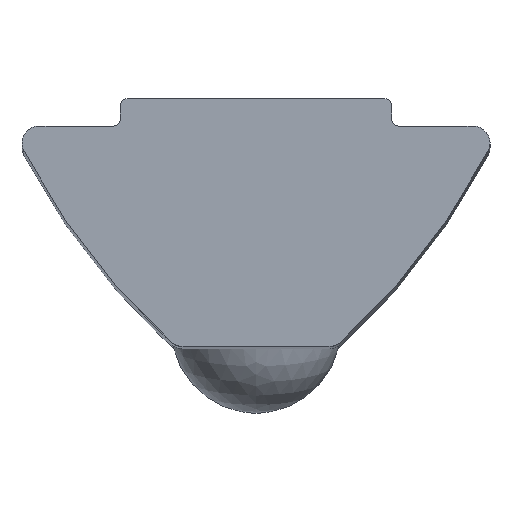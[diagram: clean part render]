
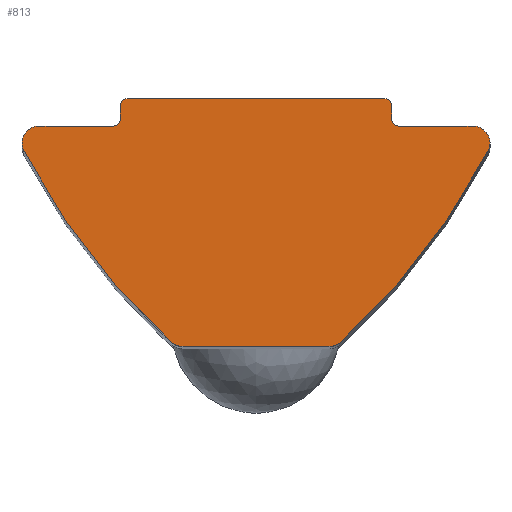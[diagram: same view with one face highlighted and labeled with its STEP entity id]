
A CAD part, top view. The second image highlights one B-rep face of the part: STEP entity #813.
In plain terms, the highlighted planar face has unit normal (0, 0, 1).
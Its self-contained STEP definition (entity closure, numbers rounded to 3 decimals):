
#12 = ORIENTED_EDGE ( 'NONE', *, *, #6687, .T. ) ;
#146 = VERTEX_POINT ( 'NONE', #8155 ) ;
#241 = CARTESIAN_POINT ( 'NONE',  ( -10.908, 7.682, 58. ) ) ;
#273 = DIRECTION ( 'NONE',  ( 0., 0., 1. ) ) ;
#308 = CARTESIAN_POINT ( 'NONE',  ( 2.15, -7.3, 58. ) ) ;
#316 = CARTESIAN_POINT ( 'NONE',  ( -4., -0.6, 58. ) ) ;
#490 = VERTEX_POINT ( 'NONE', #4217 ) ;
#635 = VERTEX_POINT ( 'NONE', #1639 ) ;
#643 = CIRCLE ( 'NONE', #4940, 20. ) ;
#690 = CARTESIAN_POINT ( 'NONE',  ( 6.4, -0.8, 58. ) ) ;
#732 = EDGE_CURVE ( 'NONE', #635, #146, #5667, .T. ) ;
#766 = VECTOR ( 'NONE', #8208, 1000. ) ;
#774 = AXIS2_PLACEMENT_3D ( 'NONE', #7708, #8504, #5123 ) ;
#806 = ORIENTED_EDGE ( 'NONE', *, *, #5677, .T. ) ;
#813 = ADVANCED_FACE ( 'NONE', ( #2361 ), #7065, .T. ) ;
#882 = EDGE_CURVE ( 'NONE', #7091, #2445, #643, .T. ) ;
#891 = DIRECTION ( 'NONE',  ( 0., 0., 1. ) ) ;
#901 = AXIS2_PLACEMENT_3D ( 'NONE', #4336, #273, #7055 ) ;
#1174 = CARTESIAN_POINT ( 'NONE',  ( -4.2, -0.6, 58. ) ) ;
#1426 = ORIENTED_EDGE ( 'NONE', *, *, #7186, .T. ) ;
#1427 = DIRECTION ( 'NONE',  ( 0., 0., 1. ) ) ;
#1537 = ORIENTED_EDGE ( 'NONE', *, *, #7899, .T. ) ;
#1544 = EDGE_CURVE ( 'NONE', #8231, #7091, #2631, .T. ) ;
#1577 = VERTEX_POINT ( 'NONE', #7801 ) ;
#1627 = CARTESIAN_POINT ( 'NONE',  ( 4.2, -0.8, 58. ) ) ;
#1639 = CARTESIAN_POINT ( 'NONE',  ( 2.485, -7.171, 58. ) ) ;
#1720 = AXIS2_PLACEMENT_3D ( 'NONE', #1800, #4550, #6857 ) ;
#1721 = EDGE_CURVE ( 'NONE', #7717, #5191, #3351, .T. ) ;
#1732 = AXIS2_PLACEMENT_3D ( 'NONE', #8884, #6130, #5361 ) ;
#1742 = CARTESIAN_POINT ( 'NONE',  ( -6.4, -1.3, 58. ) ) ;
#1800 = CARTESIAN_POINT ( 'NONE',  ( 3.8, -0.2, 58. ) ) ;
#1871 = CARTESIAN_POINT ( 'NONE',  ( 6.9, -1.3, 58. ) ) ;
#2009 = EDGE_CURVE ( 'NONE', #3210, #5160, #2904, .T. ) ;
#2090 = DIRECTION ( 'NONE',  ( 1., 0., 0. ) ) ;
#2129 = VERTEX_POINT ( 'NONE', #690 ) ;
#2331 = DIRECTION ( 'NONE',  ( -1., 0., 0. ) ) ;
#2348 = DIRECTION ( 'NONE',  ( 0., 0., -1. ) ) ;
#2361 = FACE_OUTER_BOUND ( 'NONE', #4385, .T. ) ;
#2368 = CARTESIAN_POINT ( 'NONE',  ( -3.8, -0.2, 58. ) ) ;
#2383 = EDGE_CURVE ( 'NONE', #2445, #7717, #2910, .T. ) ;
#2398 = ORIENTED_EDGE ( 'NONE', *, *, #2009, .T. ) ;
#2445 = VERTEX_POINT ( 'NONE', #8383 ) ;
#2456 = DIRECTION ( 'NONE',  ( 0., 0., 1. ) ) ;
#2481 = AXIS2_PLACEMENT_3D ( 'NONE', #7626, #1427, #6943 ) ;
#2518 = CARTESIAN_POINT ( 'NONE',  ( -2.15, -7.3, 58. ) ) ;
#2631 = CIRCLE ( 'NONE', #4210, 0.5 ) ;
#2655 = CIRCLE ( 'NONE', #8861, 0.5 ) ;
#2716 = VERTEX_POINT ( 'NONE', #1871 ) ;
#2751 = CARTESIAN_POINT ( 'NONE',  ( 4., -0.6, 58. ) ) ;
#2857 = DIRECTION ( 'NONE',  ( 1., 0., 0. ) ) ;
#2874 = EDGE_CURVE ( 'NONE', #146, #2716, #2655, .T. ) ;
#2904 = LINE ( 'NONE', #8508, #7241 ) ;
#2910 = CIRCLE ( 'NONE', #2481, 0.5 ) ;
#3016 = DIRECTION ( 'NONE',  ( 1., 0., 0. ) ) ;
#3067 = ORIENTED_EDGE ( 'NONE', *, *, #4749, .T. ) ;
#3210 = VERTEX_POINT ( 'NONE', #4696 ) ;
#3325 = EDGE_CURVE ( 'NONE', #8471, #6066, #7413, .T. ) ;
#3351 = LINE ( 'NONE', #6929, #6099 ) ;
#3394 = ORIENTED_EDGE ( 'NONE', *, *, #4658, .T. ) ;
#3439 = CARTESIAN_POINT ( 'NONE',  ( 4., -0.6, 58. ) ) ;
#3522 = DIRECTION ( 'NONE',  ( 1., 0., 0. ) ) ;
#3573 = DIRECTION ( 'NONE',  ( -1., 0., 0. ) ) ;
#3617 = ORIENTED_EDGE ( 'NONE', *, *, #8895, .T. ) ;
#3713 = AXIS2_PLACEMENT_3D ( 'NONE', #7140, #2348, #3016 ) ;
#3923 = CIRCLE ( 'NONE', #901, 0.5 ) ;
#4070 = CIRCLE ( 'NONE', #8844, 0.2 ) ;
#4165 = ORIENTED_EDGE ( 'NONE', *, *, #8133, .T. ) ;
#4210 = AXIS2_PLACEMENT_3D ( 'NONE', #1742, #891, #5673 ) ;
#4211 = CARTESIAN_POINT ( 'NONE',  ( 6.4, -1.3, 58. ) ) ;
#4217 = CARTESIAN_POINT ( 'NONE',  ( 4., -0.2, 58. ) ) ;
#4268 = EDGE_CURVE ( 'NONE', #1577, #8231, #8837, .T. ) ;
#4292 = DIRECTION ( 'NONE',  ( 1., 0., 0. ) ) ;
#4336 = CARTESIAN_POINT ( 'NONE',  ( 2.15, -6.8, 58. ) ) ;
#4385 = EDGE_LOOP ( 'NONE', ( #3067, #3617, #806, #2398, #1426, #4714, #1537, #8102, #8670, #7148, #7468, #5242, #3394, #5023, #6852, #4165, #12 ) ) ;
#4463 = CIRCLE ( 'NONE', #1732, 0.5 ) ;
#4550 = DIRECTION ( 'NONE',  ( 0., 0., 1. ) ) ;
#4658 = EDGE_CURVE ( 'NONE', #5191, #635, #3923, .T. ) ;
#4668 = CARTESIAN_POINT ( 'NONE',  ( 10.908, 7.682, 58. ) ) ;
#4696 = CARTESIAN_POINT ( 'NONE',  ( 3.8, 0., 58. ) ) ;
#4714 = ORIENTED_EDGE ( 'NONE', *, *, #3325, .T. ) ;
#4749 = EDGE_CURVE ( 'NONE', #4926, #5542, #6779, .T. ) ;
#4775 = VECTOR ( 'NONE', #6281, 1000. ) ;
#4791 = LINE ( 'NONE', #2751, #4775 ) ;
#4926 = VERTEX_POINT ( 'NONE', #1627 ) ;
#4940 = AXIS2_PLACEMENT_3D ( 'NONE', #4668, #5258, #8056 ) ;
#5023 = ORIENTED_EDGE ( 'NONE', *, *, #732, .T. ) ;
#5031 = DIRECTION ( 'NONE',  ( 0., 0., 1. ) ) ;
#5123 = DIRECTION ( 'NONE',  ( 1., 0., 0. ) ) ;
#5160 = VERTEX_POINT ( 'NONE', #8659 ) ;
#5191 = VERTEX_POINT ( 'NONE', #308 ) ;
#5242 = ORIENTED_EDGE ( 'NONE', *, *, #1721, .T. ) ;
#5258 = DIRECTION ( 'NONE',  ( 0., 0., 1. ) ) ;
#5361 = DIRECTION ( 'NONE',  ( 1., 0., 0. ) ) ;
#5427 = CARTESIAN_POINT ( 'NONE',  ( -4., -0.2, 58. ) ) ;
#5542 = VERTEX_POINT ( 'NONE', #3439 ) ;
#5584 = CARTESIAN_POINT ( 'NONE',  ( -6.844, -1.53, 58. ) ) ;
#5667 = CIRCLE ( 'NONE', #6248, 20. ) ;
#5673 = DIRECTION ( 'NONE',  ( 1., 0., 0. ) ) ;
#5677 = EDGE_CURVE ( 'NONE', #490, #3210, #8628, .T. ) ;
#5932 = CARTESIAN_POINT ( 'NONE',  ( -4.2, -0.8, 58. ) ) ;
#6066 = VERTEX_POINT ( 'NONE', #316 ) ;
#6099 = VECTOR ( 'NONE', #2090, 1000. ) ;
#6130 = DIRECTION ( 'NONE',  ( 0., 0., 1. ) ) ;
#6145 = DIRECTION ( 'NONE',  ( 0., -1., 0. ) ) ;
#6248 = AXIS2_PLACEMENT_3D ( 'NONE', #241, #5031, #2857 ) ;
#6281 = DIRECTION ( 'NONE',  ( 0., 1., 0. ) ) ;
#6412 = DIRECTION ( 'NONE',  ( 0., 0., -1. ) ) ;
#6437 = DIRECTION ( 'NONE',  ( 1., 0., 0. ) ) ;
#6536 = CARTESIAN_POINT ( 'NONE',  ( 6.4, -0.8, 58. ) ) ;
#6687 = EDGE_CURVE ( 'NONE', #2129, #4926, #8518, .T. ) ;
#6779 = CIRCLE ( 'NONE', #3713, 0.2 ) ;
#6852 = ORIENTED_EDGE ( 'NONE', *, *, #2874, .T. ) ;
#6857 = DIRECTION ( 'NONE',  ( 1., 0., 0. ) ) ;
#6929 = CARTESIAN_POINT ( 'NONE',  ( -2.15, -7.3, 58. ) ) ;
#6943 = DIRECTION ( 'NONE',  ( 1., 0., 0. ) ) ;
#6976 = DIRECTION ( 'NONE',  ( 0., 0., 1. ) ) ;
#7055 = DIRECTION ( 'NONE',  ( 1., 0., 0. ) ) ;
#7065 = PLANE ( 'NONE',  #774 ) ;
#7091 = VERTEX_POINT ( 'NONE', #5584 ) ;
#7140 = CARTESIAN_POINT ( 'NONE',  ( 4.2, -0.6, 58. ) ) ;
#7148 = ORIENTED_EDGE ( 'NONE', *, *, #882, .T. ) ;
#7186 = EDGE_CURVE ( 'NONE', #5160, #8471, #4070, .T. ) ;
#7210 = AXIS2_PLACEMENT_3D ( 'NONE', #1174, #6412, #4292 ) ;
#7241 = VECTOR ( 'NONE', #3573, 1000. ) ;
#7413 = LINE ( 'NONE', #5427, #8685 ) ;
#7468 = ORIENTED_EDGE ( 'NONE', *, *, #2383, .T. ) ;
#7626 = CARTESIAN_POINT ( 'NONE',  ( -2.15, -6.8, 58. ) ) ;
#7649 = VECTOR ( 'NONE', #2331, 1000. ) ;
#7708 = CARTESIAN_POINT ( 'NONE',  ( 4.2, -0.6, 58. ) ) ;
#7717 = VERTEX_POINT ( 'NONE', #2518 ) ;
#7801 = CARTESIAN_POINT ( 'NONE',  ( -4.2, -0.8, 58. ) ) ;
#7899 = EDGE_CURVE ( 'NONE', #6066, #1577, #8081, .T. ) ;
#8056 = DIRECTION ( 'NONE',  ( 1., 0., 0. ) ) ;
#8081 = CIRCLE ( 'NONE', #7210, 0.2 ) ;
#8102 = ORIENTED_EDGE ( 'NONE', *, *, #4268, .T. ) ;
#8133 = EDGE_CURVE ( 'NONE', #2716, #2129, #4463, .T. ) ;
#8155 = CARTESIAN_POINT ( 'NONE',  ( 6.844, -1.53, 58. ) ) ;
#8208 = DIRECTION ( 'NONE',  ( -1., 0., 0. ) ) ;
#8209 = CARTESIAN_POINT ( 'NONE',  ( -6.4, -0.8, 58. ) ) ;
#8231 = VERTEX_POINT ( 'NONE', #8209 ) ;
#8383 = CARTESIAN_POINT ( 'NONE',  ( -2.485, -7.171, 58. ) ) ;
#8471 = VERTEX_POINT ( 'NONE', #8914 ) ;
#8504 = DIRECTION ( 'NONE',  ( 0., 0., 1. ) ) ;
#8508 = CARTESIAN_POINT ( 'NONE',  ( 3.8, 0., 58. ) ) ;
#8518 = LINE ( 'NONE', #6536, #7649 ) ;
#8628 = CIRCLE ( 'NONE', #1720, 0.2 ) ;
#8659 = CARTESIAN_POINT ( 'NONE',  ( -3.8, 0., 58. ) ) ;
#8670 = ORIENTED_EDGE ( 'NONE', *, *, #1544, .T. ) ;
#8685 = VECTOR ( 'NONE', #6145, 1000. ) ;
#8837 = LINE ( 'NONE', #5932, #766 ) ;
#8844 = AXIS2_PLACEMENT_3D ( 'NONE', #2368, #2456, #6437 ) ;
#8861 = AXIS2_PLACEMENT_3D ( 'NONE', #4211, #6976, #3522 ) ;
#8884 = CARTESIAN_POINT ( 'NONE',  ( 6.4, -1.3, 58. ) ) ;
#8895 = EDGE_CURVE ( 'NONE', #5542, #490, #4791, .T. ) ;
#8914 = CARTESIAN_POINT ( 'NONE',  ( -4., -0.2, 58. ) ) ;
